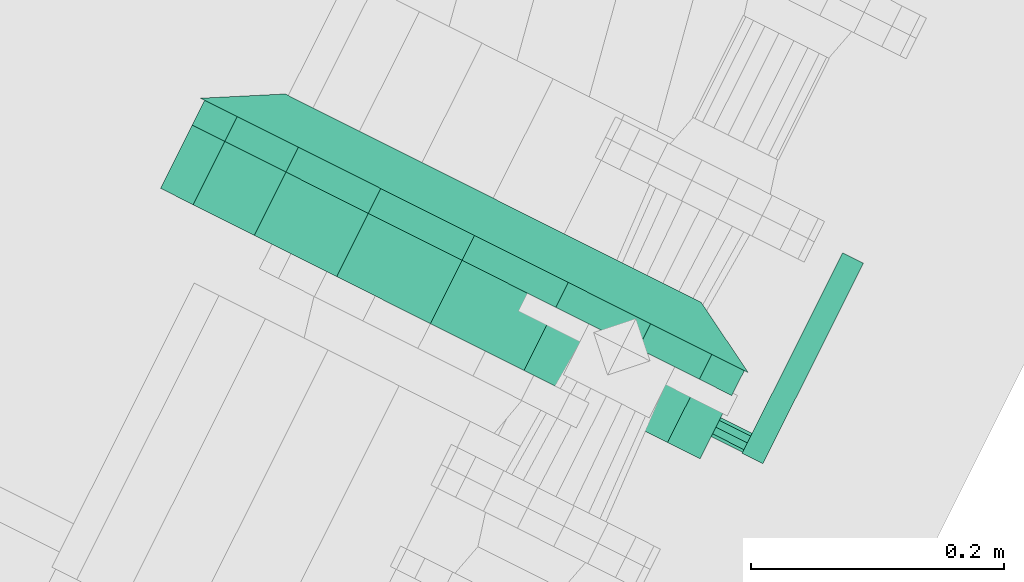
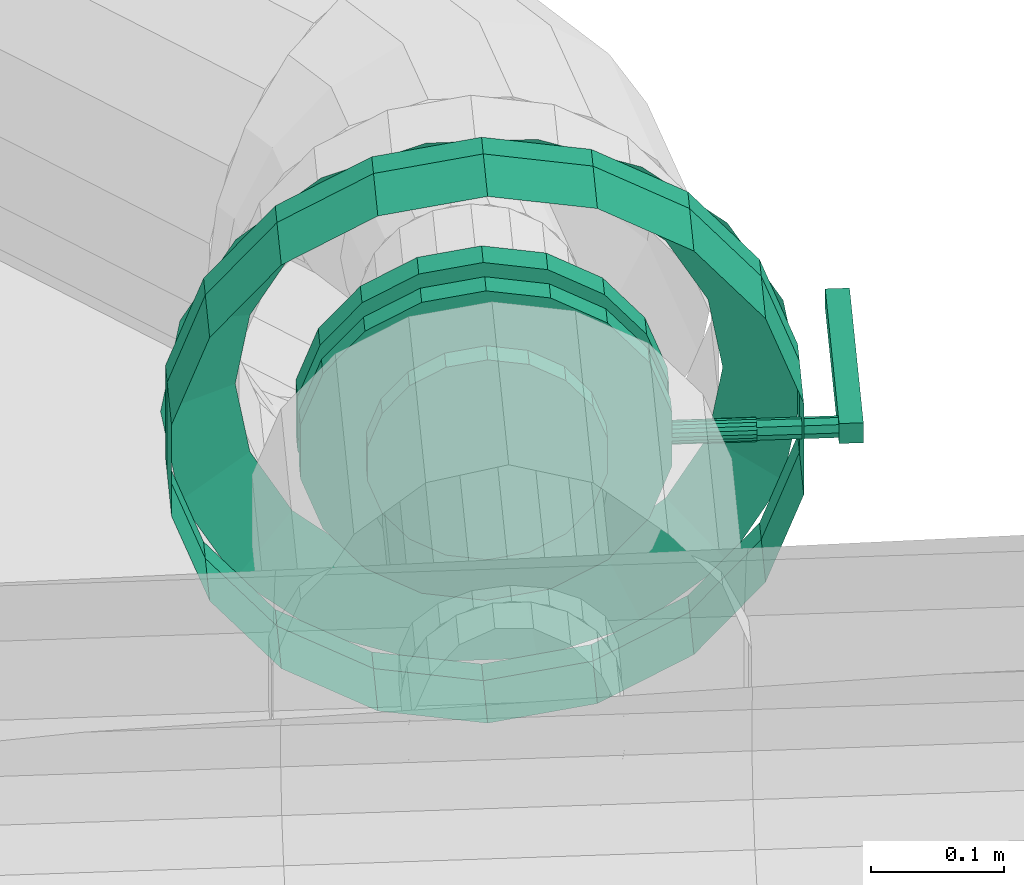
# One storey, part 52 of 206: 1 flow controller, 1 flow fitting.
"""IFC2X3 building model written with IfcOpenShell, lengths in metres."""

from ifc_helpers import new_model, si_unit, derived_unit, direction, frame, origin, place, context, subcontext, project, spatial, face_set, surface_model, source, transform, mapped, material, type_object, type_shapes, element, save


model = new_model("IFC2X3")

# Units and contexts
model_context = context("Model", 3, precision=5.2338327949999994e-05, world=origin(), true_north=direction((0.0, 1.0)))
body_context = subcontext(model_context, "Body", "Model", "MODEL_VIEW")
ifc_project = project(units=[si_unit("LENGTHUNIT", "METRE"), si_unit("AREAUNIT", "SQUARE_METRE"), si_unit("VOLUMEUNIT", "CUBIC_METRE"), si_unit("MASSUNIT", "GRAM", prefix="KILO"), si_unit("PLANEANGLEUNIT", "RADIAN"), derived_unit("THERMALTRANSMITTANCEUNIT", [(si_unit("MASSUNIT", "GRAM", prefix="KILO"), 1), (si_unit("THERMODYNAMICTEMPERATUREUNIT", "KELVIN"), -1), (si_unit("TIMEUNIT", "SECOND"), -3)])], contexts=[model_context])

# Site, building, storey
site_placement = place(None, frame((0.0, 0.0, 0.0), z_axis=(0.0, 0.0, 1.0), x_axis=(0.8939966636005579, -0.4480736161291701, 0.0)))
site = spatial("IfcSite", under=ifc_project, at=site_placement, Name="Default", CompositionType="ELEMENT")
building_placement = place(site_placement, origin())
building = spatial("IfcBuilding", under=site, at=building_placement, CompositionType="ELEMENT")
storey_placement = place(building_placement, origin())
storey = spatial("IfcBuildingStorey", under=building, at=storey_placement, Name="Erdgeschoss", CompositionType="ELEMENT", Elevation=0.0)

# Flow controller
ifc_material = material(Name="IfcSurfaceStyle #9317")
distribution_element_type_1 = type_object("IfcDistributionElementType", Name="Zwischenflanschklappe 343385:Zwischenflanschklappe 343385", material=ifc_material)
shared_shape_1 = source(origin(), body_context, "Body", "SurfaceModel", [
    surface_model("IfcFaceBasedSurfaceModel", [(27.56200023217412, 5.540212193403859, 2.3448), (27.56200023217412, 5.362712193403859, 2.3448), (27.56200023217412, 5.362712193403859, 2.3632), (27.56200023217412, 5.540212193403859, 2.3632), (27.580400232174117, 5.362712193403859, 2.3632), (27.580400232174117, 5.540212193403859, 2.3632), (27.580400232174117, 5.362712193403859, 2.3448), (27.580400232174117, 5.540212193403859, 2.3448), (27.295400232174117, 5.39991219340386, 2.4460000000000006), (27.263934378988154, 5.39991219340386, 2.440451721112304), (27.263934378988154, 5.381245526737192, 2.440451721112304), (27.295400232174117, 5.381245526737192, 2.4460000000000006), (27.236263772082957, 5.39991219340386, 2.424476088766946), (27.236263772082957, 5.381245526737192, 2.424476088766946), (27.215725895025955, 5.39991219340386, 2.400000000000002), (27.215725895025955, 5.381245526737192, 2.400000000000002), (27.204797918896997, 5.39991219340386, 2.3699756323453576), (27.204797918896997, 5.381245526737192, 2.3699756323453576), (27.204797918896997, 5.39991219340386, 2.3380243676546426), (27.204797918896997, 5.381245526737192, 2.3380243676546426), (27.215725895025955, 5.39991219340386, 2.308), (27.215725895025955, 5.381245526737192, 2.308), (27.236263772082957, 5.39991219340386, 2.283523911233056), (27.236263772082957, 5.381245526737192, 2.283523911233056), (27.263934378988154, 5.39991219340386, 2.2675482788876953), (27.263934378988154, 5.381245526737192, 2.2675482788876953), (27.295400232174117, 5.39991219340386, 2.2620000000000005), (27.295400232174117, 5.381245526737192, 2.2620000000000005), (27.32686608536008, 5.39991219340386, 2.2675482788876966), (27.32686608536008, 5.381245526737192, 2.2675482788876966), (27.35453669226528, 5.39991219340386, 2.2835239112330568), (27.35453669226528, 5.381245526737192, 2.2835239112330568), (27.375074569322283, 5.39991219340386, 2.3079999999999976), (27.375074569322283, 5.381245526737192, 2.3079999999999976), (27.38600254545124, 5.39991219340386, 2.3380243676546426), (27.38600254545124, 5.381245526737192, 2.3380243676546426), (27.38600254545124, 5.39991219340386, 2.3699756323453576), (27.38600254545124, 5.381245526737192, 2.3699756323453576), (27.375074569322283, 5.39991219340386, 2.4000000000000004), (27.375074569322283, 5.381245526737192, 2.4000000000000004), (27.35453669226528, 5.39991219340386, 2.4244760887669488), (27.35453669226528, 5.381245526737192, 2.4244760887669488), (27.32686608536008, 5.39991219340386, 2.440451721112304), (27.32686608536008, 5.381245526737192, 2.440451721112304), (27.295400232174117, 5.39991219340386, 2.354), (27.295400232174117, 5.381245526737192, 2.354), (27.295400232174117, 5.381245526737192, 2.4964999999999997), (27.246662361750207, 5.381245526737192, 2.4879061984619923), (27.246662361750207, 5.362578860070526, 2.4879061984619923), (27.295400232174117, 5.362578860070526, 2.4964999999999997), (27.203802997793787, 5.381245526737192, 2.463161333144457), (27.203802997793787, 5.362578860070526, 2.463161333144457), (27.171991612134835, 5.381245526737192, 2.425249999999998), (27.171991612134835, 5.362578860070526, 2.425249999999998), (27.15506512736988, 5.381245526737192, 2.3787448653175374), (27.15506512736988, 5.362578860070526, 2.3787448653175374), (27.15506512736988, 5.381245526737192, 2.3292551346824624), (27.15506512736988, 5.362578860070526, 2.3292551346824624), (27.171991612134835, 5.381245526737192, 2.28275), (27.171991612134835, 5.362578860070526, 2.28275), (27.203802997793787, 5.381245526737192, 2.2448386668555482), (27.203802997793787, 5.362578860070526, 2.2448386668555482), (27.246662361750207, 5.381245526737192, 2.2200938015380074), (27.246662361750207, 5.362578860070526, 2.2200938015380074), (27.295400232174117, 5.381245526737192, 2.2115), (27.295400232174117, 5.362578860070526, 2.2115), (27.344138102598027, 5.381245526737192, 2.2200938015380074), (27.344138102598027, 5.362578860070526, 2.2200938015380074), (27.386997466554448, 5.381245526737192, 2.2448386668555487), (27.386997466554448, 5.362578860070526, 2.2448386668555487), (27.418808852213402, 5.381245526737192, 2.28275), (27.418808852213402, 5.362578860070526, 2.28275), (27.43573533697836, 5.381245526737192, 2.329255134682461), (27.43573533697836, 5.362578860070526, 2.329255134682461), (27.435735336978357, 5.381245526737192, 2.3787448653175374), (27.435735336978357, 5.362578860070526, 2.3787448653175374), (27.418808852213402, 5.381245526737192, 2.4252499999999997), (27.418808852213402, 5.362578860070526, 2.4252499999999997), (27.38699746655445, 5.381245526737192, 2.463161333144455), (27.38699746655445, 5.362578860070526, 2.463161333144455), (27.344138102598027, 5.381245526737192, 2.4879061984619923), (27.344138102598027, 5.362578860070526, 2.4879061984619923), (27.295400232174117, 5.362578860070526, 2.354), (27.295400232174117, 5.362578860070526, 2.4460000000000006), (27.263934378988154, 5.362578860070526, 2.440451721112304), (27.263934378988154, 5.343912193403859, 2.440451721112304), (27.295400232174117, 5.343912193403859, 2.4460000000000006), (27.236263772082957, 5.362578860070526, 2.424476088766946), (27.236263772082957, 5.343912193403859, 2.424476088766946), (27.215725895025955, 5.362578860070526, 2.400000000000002), (27.215725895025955, 5.343912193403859, 2.400000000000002), (27.204797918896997, 5.362578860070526, 2.3699756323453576), (27.204797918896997, 5.343912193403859, 2.3699756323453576), (27.204797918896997, 5.362578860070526, 2.3380243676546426), (27.204797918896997, 5.343912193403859, 2.3380243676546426), (27.215725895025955, 5.362578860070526, 2.308), (27.215725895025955, 5.343912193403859, 2.308), (27.236263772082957, 5.362578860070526, 2.283523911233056), (27.236263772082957, 5.343912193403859, 2.283523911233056), (27.263934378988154, 5.362578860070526, 2.2675482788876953), (27.263934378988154, 5.343912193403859, 2.2675482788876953), (27.295400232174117, 5.362578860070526, 2.2620000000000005), (27.295400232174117, 5.343912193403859, 2.2620000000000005), (27.32686608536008, 5.362578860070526, 2.2675482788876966), (27.32686608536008, 5.343912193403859, 2.2675482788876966), (27.35453669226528, 5.362578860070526, 2.2835239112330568), (27.35453669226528, 5.343912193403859, 2.2835239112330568), (27.375074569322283, 5.362578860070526, 2.3079999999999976), (27.375074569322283, 5.343912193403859, 2.3079999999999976), (27.38600254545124, 5.362578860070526, 2.3380243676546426), (27.38600254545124, 5.343912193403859, 2.3380243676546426), (27.38600254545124, 5.362578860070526, 2.3699756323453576), (27.38600254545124, 5.343912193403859, 2.3699756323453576), (27.375074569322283, 5.362578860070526, 2.4000000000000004), (27.375074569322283, 5.343912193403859, 2.4000000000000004), (27.35453669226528, 5.362578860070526, 2.4244760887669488), (27.35453669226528, 5.343912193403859, 2.4244760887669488), (27.32686608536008, 5.362578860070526, 2.440451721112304), (27.32686608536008, 5.343912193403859, 2.440451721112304), (27.295400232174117, 5.343912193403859, 2.354), (27.295400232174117, 5.371912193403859, 2.3633333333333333), (27.295400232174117, 5.368720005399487, 2.3627704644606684), (27.49995023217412, 5.368720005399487, 2.3627704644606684), (27.49995023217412, 5.371912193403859, 2.3633333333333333), (27.295400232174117, 5.365912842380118, 2.3611497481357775), (27.49995023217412, 5.365912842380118, 2.3611497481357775), (27.295400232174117, 5.363829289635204, 2.358666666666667), (27.49995023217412, 5.363829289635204, 2.358666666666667), (27.295400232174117, 5.362720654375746, 2.3556207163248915), (27.49995023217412, 5.362720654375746, 2.3556207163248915), (27.295400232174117, 5.362720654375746, 2.3523792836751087), (27.49995023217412, 5.362720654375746, 2.3523792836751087), (27.295400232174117, 5.363829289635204, 2.3493333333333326), (27.49995023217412, 5.363829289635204, 2.3493333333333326), (27.295400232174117, 5.365912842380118, 2.3468502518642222), (27.49995023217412, 5.365912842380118, 2.3468502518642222), (27.295400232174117, 5.368720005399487, 2.3452295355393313), (27.49995023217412, 5.368720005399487, 2.3452295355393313), (27.295400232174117, 5.371912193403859, 2.344666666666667), (27.49995023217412, 5.371912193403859, 2.344666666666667), (27.295400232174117, 5.3751043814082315, 2.3452295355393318), (27.49995023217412, 5.3751043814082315, 2.3452295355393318), (27.295400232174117, 5.377911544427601, 2.3468502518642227), (27.49995023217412, 5.377911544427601, 2.3468502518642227), (27.295400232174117, 5.379995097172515, 2.349333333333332), (27.49995023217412, 5.379995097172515, 2.349333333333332), (27.295400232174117, 5.381103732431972, 2.3523792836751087), (27.49995023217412, 5.381103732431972, 2.3523792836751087), (27.295400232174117, 5.381103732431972, 2.355620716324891), (27.49995023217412, 5.381103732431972, 2.355620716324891), (27.295400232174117, 5.379995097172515, 2.3586666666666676), (27.49995023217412, 5.379995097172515, 2.3586666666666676), (27.295400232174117, 5.377911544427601, 2.361149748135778), (27.49995023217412, 5.377911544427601, 2.361149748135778), (27.295400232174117, 5.3751043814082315, 2.362770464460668), (27.49995023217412, 5.3751043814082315, 2.362770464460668), (27.295400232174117, 5.371912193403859, 2.354), (27.499950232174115, 5.371912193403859, 2.354), (27.49995023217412, 5.371912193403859, 2.362415), (27.49995023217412, 5.3659618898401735, 2.3599503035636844), (27.56200023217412, 5.3659618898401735, 2.3599503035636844), (27.56200023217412, 5.371912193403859, 2.362415), (27.49995023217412, 5.36349719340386, 2.354), (27.56200023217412, 5.36349719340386, 2.354), (27.49995023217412, 5.3659618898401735, 2.3480496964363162), (27.56200023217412, 5.3659618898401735, 2.3480496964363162), (27.49995023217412, 5.371912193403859, 2.3455850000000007), (27.56200023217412, 5.371912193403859, 2.3455850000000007), (27.49995023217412, 5.377862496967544, 2.3480496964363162), (27.56200023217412, 5.377862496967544, 2.3480496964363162), (27.49995023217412, 5.380327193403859, 2.354), (27.56200023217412, 5.380327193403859, 2.354), (27.49995023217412, 5.377862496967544, 2.359950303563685), (27.56200023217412, 5.377862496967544, 2.359950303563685), (27.56200023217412, 5.371912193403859, 2.354), (27.295400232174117, 5.39991219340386, 2.596500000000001), (27.212460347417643, 5.39991219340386, 2.581875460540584), (27.212460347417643, 5.343912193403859, 2.581875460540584), (27.295400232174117, 5.343912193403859, 2.596500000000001), (27.13952423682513, 5.39991219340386, 2.5397657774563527), (27.13952423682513, 5.343912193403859, 2.5397657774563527), (27.085389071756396, 5.39991219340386, 2.47525), (27.085389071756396, 5.343912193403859, 2.47525), (27.05658435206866, 5.39991219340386, 2.396109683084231), (27.05658435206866, 5.343912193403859, 2.396109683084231), (27.05658435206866, 5.39991219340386, 2.311890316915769), (27.05658435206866, 5.343912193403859, 2.311890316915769), (27.085389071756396, 5.39991219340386, 2.2327500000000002), (27.085389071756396, 5.343912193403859, 2.2327500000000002), (27.13952423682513, 5.39991219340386, 2.1682342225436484), (27.13952423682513, 5.343912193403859, 2.1682342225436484), (27.212460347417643, 5.39991219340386, 2.1261245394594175), (27.212460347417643, 5.343912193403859, 2.1261245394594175), (27.295400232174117, 5.39991219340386, 2.1115000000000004), (27.295400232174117, 5.343912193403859, 2.1115000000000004), (27.378340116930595, 5.39991219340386, 2.1261245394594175), (27.378340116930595, 5.343912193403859, 2.1261245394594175), (27.451276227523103, 5.39991219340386, 2.168234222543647), (27.451276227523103, 5.343912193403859, 2.168234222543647), (27.505411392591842, 5.39991219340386, 2.232749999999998), (27.505411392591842, 5.343912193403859, 2.232749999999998), (27.534216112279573, 5.39991219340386, 2.31189031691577), (27.534216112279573, 5.343912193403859, 2.31189031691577), (27.534216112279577, 5.39991219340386, 2.396109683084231), (27.534216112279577, 5.343912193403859, 2.396109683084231), (27.505411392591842, 5.39991219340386, 2.47525), (27.505411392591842, 5.343912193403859, 2.47525), (27.451276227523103, 5.39991219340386, 2.539765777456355), (27.451276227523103, 5.343912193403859, 2.539765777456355), (27.378340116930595, 5.39991219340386, 2.581875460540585), (27.378340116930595, 5.343912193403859, 2.581875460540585)], [face_set([[[0, 1, 2, 3]], [[3, 2, 4, 5]], [[5, 4, 6, 7]], [[7, 6, 1, 0]], [[0, 3, 5, 7]], [[6, 4, 2, 1]], [[8, 9, 10, 11]], [[9, 12, 13, 10]], [[12, 14, 15, 13]], [[14, 16, 17, 15]], [[16, 18, 19, 17]], [[18, 20, 21, 19]], [[20, 22, 23, 21]], [[22, 24, 25, 23]], [[24, 26, 27, 25]], [[26, 28, 29, 27]], [[28, 30, 31, 29]], [[30, 32, 33, 31]], [[32, 34, 35, 33]], [[34, 36, 37, 35]], [[36, 38, 39, 37]], [[38, 40, 41, 39]], [[40, 42, 43, 41]], [[42, 8, 11, 43]], [[44, 9, 8]], [[44, 12, 9]], [[44, 14, 12]], [[44, 16, 14]], [[44, 18, 16]], [[44, 20, 18]], [[44, 22, 20]], [[44, 24, 22]], [[44, 26, 24]], [[44, 28, 26]], [[44, 30, 28]], [[44, 32, 30]], [[44, 34, 32]], [[44, 36, 34]], [[44, 38, 36]], [[44, 40, 38]], [[44, 42, 40]], [[44, 8, 42]], [[45, 43, 11]], [[45, 41, 43]], [[45, 39, 41]], [[45, 37, 39]], [[45, 35, 37]], [[45, 33, 35]], [[45, 31, 33]], [[45, 29, 31]], [[45, 27, 29]], [[45, 25, 27]], [[45, 23, 25]], [[45, 21, 23]], [[45, 19, 21]], [[45, 17, 19]], [[45, 15, 17]], [[45, 13, 15]], [[45, 10, 13]], [[45, 11, 10]], [[46, 47, 48, 49]], [[47, 50, 51, 48]], [[50, 52, 53, 51]], [[52, 54, 55, 53]], [[54, 56, 57, 55]], [[56, 58, 59, 57]], [[58, 60, 61, 59]], [[60, 62, 63, 61]], [[62, 64, 65, 63]], [[64, 66, 67, 65]], [[66, 68, 69, 67]], [[68, 70, 71, 69]], [[70, 72, 73, 71]], [[72, 74, 75, 73]], [[74, 76, 77, 75]], [[76, 78, 79, 77]], [[78, 80, 81, 79]], [[80, 46, 49, 81]], [[45, 47, 46]], [[45, 50, 47]], [[45, 52, 50]], [[45, 54, 52]], [[45, 56, 54]], [[45, 58, 56]], [[45, 60, 58]], [[45, 62, 60]], [[45, 64, 62]], [[45, 66, 64]], [[45, 68, 66]], [[45, 70, 68]], [[45, 72, 70]], [[45, 74, 72]], [[45, 76, 74]], [[45, 78, 76]], [[45, 80, 78]], [[45, 46, 80]], [[82, 81, 49]], [[82, 79, 81]], [[82, 77, 79]], [[82, 75, 77]], [[82, 73, 75]], [[82, 71, 73]], [[82, 69, 71]], [[82, 67, 69]], [[82, 65, 67]], [[82, 63, 65]], [[82, 61, 63]], [[82, 59, 61]], [[82, 57, 59]], [[82, 55, 57]], [[82, 53, 55]], [[82, 51, 53]], [[82, 48, 51]], [[82, 49, 48]], [[83, 84, 85, 86]], [[84, 87, 88, 85]], [[87, 89, 90, 88]], [[89, 91, 92, 90]], [[91, 93, 94, 92]], [[93, 95, 96, 94]], [[95, 97, 98, 96]], [[97, 99, 100, 98]], [[99, 101, 102, 100]], [[101, 103, 104, 102]], [[103, 105, 106, 104]], [[105, 107, 108, 106]], [[107, 109, 110, 108]], [[109, 111, 112, 110]], [[111, 113, 114, 112]], [[113, 115, 116, 114]], [[115, 117, 118, 116]], [[117, 83, 86, 118]], [[82, 84, 83]], [[82, 87, 84]], [[82, 89, 87]], [[82, 91, 89]], [[82, 93, 91]], [[82, 95, 93]], [[82, 97, 95]], [[82, 99, 97]], [[82, 101, 99]], [[82, 103, 101]], [[82, 105, 103]], [[82, 107, 105]], [[82, 109, 107]], [[82, 111, 109]], [[82, 113, 111]], [[82, 115, 113]], [[82, 117, 115]], [[82, 83, 117]], [[119, 118, 86]], [[119, 116, 118]], [[119, 114, 116]], [[119, 112, 114]], [[119, 110, 112]], [[119, 108, 110]], [[119, 106, 108]], [[119, 104, 106]], [[119, 102, 104]], [[119, 100, 102]], [[119, 98, 100]], [[119, 96, 98]], [[119, 94, 96]], [[119, 92, 94]], [[119, 90, 92]], [[119, 88, 90]], [[119, 85, 88]], [[119, 86, 85]], [[120, 121, 122, 123]], [[121, 124, 125, 122]], [[124, 126, 127, 125]], [[126, 128, 129, 127]], [[128, 130, 131, 129]], [[130, 132, 133, 131]], [[132, 134, 135, 133]], [[134, 136, 137, 135]], [[136, 138, 139, 137]], [[138, 140, 141, 139]], [[140, 142, 143, 141]], [[142, 144, 145, 143]], [[144, 146, 147, 145]], [[146, 148, 149, 147]], [[148, 150, 151, 149]], [[150, 152, 153, 151]], [[152, 154, 155, 153]], [[154, 120, 123, 155]], [[156, 121, 120]], [[156, 124, 121]], [[156, 126, 124]], [[156, 128, 126]], [[156, 130, 128]], [[156, 132, 130]], [[156, 134, 132]], [[156, 136, 134]], [[156, 138, 136]], [[156, 140, 138]], [[156, 142, 140]], [[156, 144, 142]], [[156, 146, 144]], [[156, 148, 146]], [[156, 150, 148]], [[156, 152, 150]], [[156, 154, 152]], [[156, 120, 154]], [[157, 155, 123]], [[157, 153, 155]], [[157, 151, 153]], [[157, 149, 151]], [[157, 147, 149]], [[157, 145, 147]], [[157, 143, 145]], [[157, 141, 143]], [[157, 139, 141]], [[157, 137, 139]], [[157, 135, 137]], [[157, 133, 135]], [[157, 131, 133]], [[157, 129, 131]], [[157, 127, 129]], [[157, 125, 127]], [[157, 122, 125]], [[157, 123, 122]], [[158, 159, 160, 161]], [[159, 162, 163, 160]], [[162, 164, 165, 163]], [[164, 166, 167, 165]], [[166, 168, 169, 167]], [[168, 170, 171, 169]], [[170, 172, 173, 171]], [[172, 158, 161, 173]], [[174, 173, 161]], [[174, 171, 173]], [[174, 169, 171]], [[174, 167, 169]], [[174, 165, 167]], [[174, 163, 165]], [[174, 160, 163]], [[174, 161, 160]], [[175, 176, 177, 178]], [[176, 179, 180, 177]], [[179, 181, 182, 180]], [[181, 183, 184, 182]], [[183, 185, 186, 184]], [[185, 187, 188, 186]], [[187, 189, 190, 188]], [[189, 191, 192, 190]], [[191, 193, 194, 192]], [[193, 195, 196, 194]], [[195, 197, 198, 196]], [[197, 199, 200, 198]], [[199, 201, 202, 200]], [[201, 203, 204, 202]], [[203, 205, 206, 204]], [[205, 207, 208, 206]], [[207, 209, 210, 208]], [[209, 175, 178, 210]]])]),
])
type_shapes(distribution_element_type_1, [shared_shape_1])
flow_controller_placement = place(storey_placement, origin())
element("IfcFlowController", 1, at=flow_controller_placement, inside=storey, type_object=distribution_element_type_1, material=ifc_material, Name="Zwischenflanschklappe", ObjectType="Zwischenflanschklappe", context=body_context, shape_type="MappedRepresentation", body=[
    mapped(shared_shape_1, transform((0.0, 0.0, 0.0), scale=1.0)),
])

# Flow fitting
distribution_element_type_2 = type_object("IfcDistributionElementType", Name="Flansch 343431:Flansch 343431", material=ifc_material)
shared_shape_2 = source(origin(), body_context, "Body", "SurfaceModel", [
    surface_model("IfcFaceBasedSurfaceModel", [(27.21125023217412, 5.454912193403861, 2.3540000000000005), (27.21632509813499, 5.4549121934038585, 2.3252190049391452), (27.208948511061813, 5.421912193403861, 2.3225341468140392), (27.203400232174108, 5.421912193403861, 2.354000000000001), (27.23093759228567, 5.454912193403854, 2.299909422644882), (27.224924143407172, 5.421912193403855, 2.2948635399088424), (27.253325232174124, 5.454912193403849, 2.281123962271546), (27.249400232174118, 5.42191219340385, 2.274325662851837), (27.280787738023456, 5.454912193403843, 2.2711284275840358), (27.27942459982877, 5.421912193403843, 2.26339768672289), (27.3100127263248, 5.454912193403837, 2.271128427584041), (27.31137586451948, 5.421912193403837, 2.2633976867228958), (27.337475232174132, 5.454912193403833, 2.28112396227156), (27.34140023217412, 5.4219121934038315, 2.274325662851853), (27.359862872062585, 5.454912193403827, 2.299909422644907), (27.365876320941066, 5.421912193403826, 2.29486353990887), (27.374475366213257, 5.454912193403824, 2.325219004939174), (27.381851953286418, 5.421912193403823, 2.3225341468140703), (27.379550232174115, 5.454912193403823, 2.3540000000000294), (27.387400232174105, 5.421912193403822, 2.3540000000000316), (27.37447536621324, 5.454912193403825, 2.3827809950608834), (27.381851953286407, 5.421912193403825, 2.385465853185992), (27.35986287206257, 5.454912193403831, 2.4080905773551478), (27.365876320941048, 5.42191219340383, 2.413136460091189), (27.3374752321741, 5.454912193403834, 2.426876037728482), (27.341400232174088, 5.421912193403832, 2.4336743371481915), (27.31001272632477, 5.45491219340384, 2.436871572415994), (27.31137586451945, 5.4219121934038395, 2.444602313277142), (27.28078773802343, 5.454912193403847, 2.436871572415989), (27.279424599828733, 5.421912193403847, 2.4446023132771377), (27.253325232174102, 5.454912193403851, 2.4268760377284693), (27.249400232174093, 5.4219121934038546, 2.433674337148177), (27.23093759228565, 5.454912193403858, 2.408090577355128), (27.224924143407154, 5.421912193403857, 2.4131364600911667), (27.21632509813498, 5.454912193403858, 2.382780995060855), (27.2089485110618, 5.421912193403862, 2.385465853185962), (27.29540023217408, 5.421912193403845, 2.496500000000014), (27.24666236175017, 5.421912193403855, 2.487906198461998), (27.24666236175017, 5.399912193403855, 2.4879061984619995), (27.295400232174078, 5.399912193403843, 2.496500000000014), (27.203802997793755, 5.4219121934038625, 2.4631613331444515), (27.20380299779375, 5.399912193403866, 2.463161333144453), (27.171991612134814, 5.421912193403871, 2.425249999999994), (27.17199161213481, 5.399912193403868, 2.425249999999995), (27.155065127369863, 5.421912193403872, 2.3787448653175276), (27.15506512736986, 5.399912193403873, 2.378744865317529), (27.155065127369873, 5.421912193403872, 2.3292551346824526), (27.155065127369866, 5.399912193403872, 2.3292551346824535), (27.171991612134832, 5.421912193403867, 2.282749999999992), (27.171991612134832, 5.399912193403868, 2.2827499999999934), (27.20380299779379, 5.421912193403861, 2.2448386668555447), (27.20380299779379, 5.39991219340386, 2.244838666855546), (27.24666236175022, 5.421912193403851, 2.2200938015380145), (27.24666236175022, 5.399912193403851, 2.2200938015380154), (27.29540023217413, 5.42191219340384, 2.211500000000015), (27.295400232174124, 5.399912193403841, 2.2115000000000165), (27.344138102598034, 5.42191219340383, 2.2200938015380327), (27.34413810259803, 5.3999121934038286, 2.2200938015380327), (27.38699746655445, 5.42191219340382, 2.244838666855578), (27.38699746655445, 5.399912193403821, 2.244838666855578), (27.418808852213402, 5.4219121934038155, 2.2827500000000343), (27.4188088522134, 5.3999121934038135, 2.282750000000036), (27.435735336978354, 5.421912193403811, 2.3292551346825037), (27.435735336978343, 5.399912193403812, 2.329255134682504), (27.43573533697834, 5.421912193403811, 2.3787448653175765), (27.435735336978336, 5.399912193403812, 2.378744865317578), (27.41880885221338, 5.4219121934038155, 2.4252500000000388), (27.418808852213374, 5.399912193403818, 2.4252500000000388), (27.386997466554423, 5.421912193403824, 2.4631613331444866), (27.386997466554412, 5.399912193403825, 2.4631613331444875), (27.34413810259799, 5.421912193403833, 2.4879061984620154), (27.344138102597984, 5.399912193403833, 2.4879061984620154), (27.29540023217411, 5.421912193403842, 2.3540000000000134), (27.11125023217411, 5.4549121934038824, 2.3539999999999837), (27.122355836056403, 5.454912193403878, 2.291016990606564), (27.06752477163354, 5.42191219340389, 2.2710601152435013), (27.052900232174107, 5.4219121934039, 2.3539999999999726), (27.154333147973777, 5.454912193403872, 2.2356306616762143), (27.109634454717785, 5.421912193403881, 2.198124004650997), (27.203325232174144, 5.454912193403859, 2.1945214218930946), (27.174150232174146, 5.421912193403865, 2.143988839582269), (27.263422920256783, 5.454912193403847, 2.17264765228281), (27.25329054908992, 5.421912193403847, 2.115184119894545), (27.32737754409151, 5.454912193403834, 2.172647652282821), (27.337509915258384, 5.42191219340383, 2.1151841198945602), (27.387475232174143, 5.454912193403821, 2.1945214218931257), (27.416650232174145, 5.421912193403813, 2.143988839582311), (27.436467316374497, 5.454912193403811, 2.2356306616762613), (27.48116600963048, 5.4219121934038, 2.198124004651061), (27.46844462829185, 5.454912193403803, 2.2910169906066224), (27.5232756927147, 5.421912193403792, 2.271060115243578), (27.479550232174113, 5.454912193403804, 2.354000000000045), (27.537900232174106, 5.4219121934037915, 2.354000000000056), (27.46844462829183, 5.454912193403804, 2.416983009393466), (27.52327569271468, 5.421912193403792, 2.43693988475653), (27.436467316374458, 5.454912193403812, 2.4723693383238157), (27.481166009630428, 5.421912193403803, 2.509875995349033), (27.38747523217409, 5.454912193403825, 2.513478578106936), (27.41665023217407, 5.42191219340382, 2.5640111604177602), (27.327377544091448, 5.454912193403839, 2.535352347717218), (27.337509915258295, 5.421912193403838, 2.592815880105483), (27.263422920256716, 5.454912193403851, 2.5353523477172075), (27.253290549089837, 5.421912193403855, 2.5928158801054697), (27.203325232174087, 5.454912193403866, 2.5134785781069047), (27.17415023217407, 5.421912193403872, 2.5640111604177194), (27.154333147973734, 5.454912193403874, 2.4723693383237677), (27.109634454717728, 5.421912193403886, 2.509875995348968), (27.122355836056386, 5.454912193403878, 2.4169830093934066), (27.06752477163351, 5.421912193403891, 2.436939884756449), (27.29540023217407, 5.421912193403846, 2.5965000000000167), (27.212460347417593, 5.4219121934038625, 2.581875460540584), (27.212460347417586, 5.399912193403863, 2.581875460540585), (27.29540023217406, 5.399912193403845, 2.5965000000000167), (27.13952423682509, 5.421912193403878, 2.5397657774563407), (27.139524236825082, 5.399912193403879, 2.5397657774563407), (27.085389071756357, 5.421912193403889, 2.4752499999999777), (27.085389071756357, 5.39991219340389, 2.475249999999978), (27.056584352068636, 5.421912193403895, 2.396109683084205), (27.056584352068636, 5.399912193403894, 2.396109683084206), (27.05658435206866, 5.421912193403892, 2.311890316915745), (27.056584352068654, 5.3999121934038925, 2.3118903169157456), (27.0853890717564, 5.421912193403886, 2.232749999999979), (27.0853890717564, 5.399912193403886, 2.23274999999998), (27.139524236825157, 5.421912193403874, 2.168234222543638), (27.13952423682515, 5.399912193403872, 2.168234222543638), (27.21246034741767, 5.421912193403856, 2.1261245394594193), (27.21246034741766, 5.399912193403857, 2.1261245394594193), (27.29540023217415, 5.4219121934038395, 2.111500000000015), (27.29540023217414, 5.399912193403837, 2.111500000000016), (27.378340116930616, 5.42191219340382, 2.126124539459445), (27.378340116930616, 5.399912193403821, 2.1261245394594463), (27.451276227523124, 5.421912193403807, 2.1682342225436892), (27.45127622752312, 5.3999121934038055, 2.16823422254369), (27.505411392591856, 5.421912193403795, 2.232750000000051), (27.505411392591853, 5.399912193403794, 2.232750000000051), (27.53421611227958, 5.421912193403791, 2.3118903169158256), (27.534216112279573, 5.399912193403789, 2.311890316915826), (27.53421611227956, 5.4219121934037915, 2.3961096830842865), (27.53421611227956, 5.39991219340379, 2.396109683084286), (27.505411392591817, 5.421912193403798, 2.47525000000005), (27.505411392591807, 5.3999121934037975, 2.475250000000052), (27.45127622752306, 5.421912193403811, 2.5397657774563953), (27.45127622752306, 5.399912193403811, 2.539765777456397), (27.37834011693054, 5.421912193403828, 2.581875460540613), (27.378340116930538, 5.399912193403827, 2.581875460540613)], [face_set([[[0, 1, 2, 3]], [[1, 4, 5, 2]], [[4, 6, 7, 5]], [[6, 8, 9, 7]], [[8, 10, 11, 9]], [[10, 12, 13, 11]], [[12, 14, 15, 13]], [[14, 16, 17, 15]], [[16, 18, 19, 17]], [[18, 20, 21, 19]], [[20, 22, 23, 21]], [[22, 24, 25, 23]], [[24, 26, 27, 25]], [[26, 28, 29, 27]], [[28, 30, 31, 29]], [[30, 32, 33, 31]], [[32, 34, 35, 33]], [[34, 0, 3, 35]], [[36, 37, 38, 39]], [[37, 40, 41, 38]], [[40, 42, 43, 41]], [[42, 44, 45, 43]], [[44, 46, 47, 45]], [[46, 48, 49, 47]], [[48, 50, 51, 49]], [[50, 52, 53, 51]], [[52, 54, 55, 53]], [[54, 56, 57, 55]], [[56, 58, 59, 57]], [[58, 60, 61, 59]], [[60, 62, 63, 61]], [[62, 64, 65, 63]], [[64, 66, 67, 65]], [[66, 68, 69, 67]], [[68, 70, 71, 69]], [[70, 36, 39, 71]], [[72, 37, 36]], [[72, 40, 37]], [[72, 42, 40]], [[72, 44, 42]], [[72, 46, 44]], [[72, 48, 46]], [[72, 50, 48]], [[72, 52, 50]], [[72, 54, 52]], [[72, 56, 54]], [[72, 58, 56]], [[72, 60, 58]], [[72, 62, 60]], [[72, 64, 62]], [[72, 66, 64]], [[72, 68, 66]], [[72, 70, 68]], [[72, 36, 70]], [[73, 74, 75, 76]], [[74, 77, 78, 75]], [[77, 79, 80, 78]], [[79, 81, 82, 80]], [[81, 83, 84, 82]], [[83, 85, 86, 84]], [[85, 87, 88, 86]], [[87, 89, 90, 88]], [[89, 91, 92, 90]], [[91, 93, 94, 92]], [[93, 95, 96, 94]], [[95, 97, 98, 96]], [[97, 99, 100, 98]], [[99, 101, 102, 100]], [[101, 103, 104, 102]], [[103, 105, 106, 104]], [[105, 107, 108, 106]], [[107, 73, 76, 108]], [[109, 110, 111, 112]], [[110, 113, 114, 111]], [[113, 115, 116, 114]], [[115, 117, 118, 116]], [[117, 119, 120, 118]], [[119, 121, 122, 120]], [[121, 123, 124, 122]], [[123, 125, 126, 124]], [[125, 127, 128, 126]], [[127, 129, 130, 128]], [[129, 131, 132, 130]], [[131, 133, 134, 132]], [[133, 135, 136, 134]], [[135, 137, 138, 136]], [[137, 139, 140, 138]], [[139, 141, 142, 140]], [[141, 143, 144, 142]], [[143, 109, 112, 144]]])]),
])
type_shapes(distribution_element_type_2, [shared_shape_2])
flow_fitting_placement = place(storey_placement, origin())
element("IfcFlowFitting", 2, at=flow_fitting_placement, inside=storey, type_object=distribution_element_type_2, material=ifc_material, Name="Flansch", ObjectType="Flansch", context=body_context, shape_type="MappedRepresentation", body=[
    mapped(shared_shape_2, transform((0.0, 0.0, 0.0), scale=1.0)),
])

save(model, "model.ifc")
